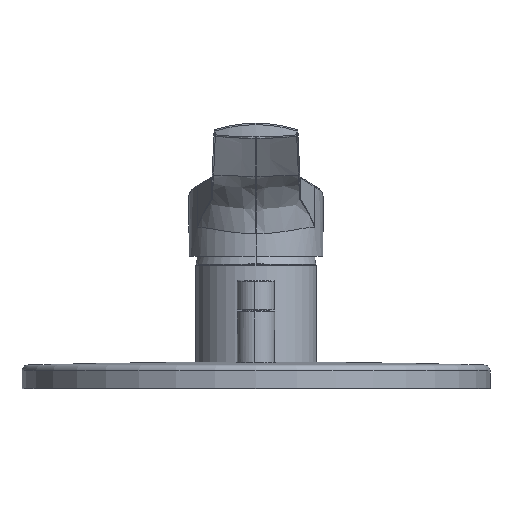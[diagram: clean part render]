
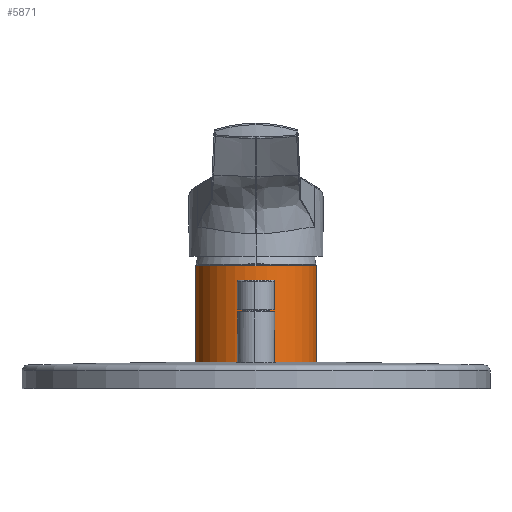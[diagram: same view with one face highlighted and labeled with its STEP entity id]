
A CAD part, left-side view. The second image highlights one B-rep face of the part: STEP entity #5871.
In plain terms, the highlighted cylindrical face has radius 20.35 mm (diameter 40.7 mm), a partial arc.
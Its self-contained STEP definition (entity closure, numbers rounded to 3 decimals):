
#1078=CARTESIAN_POINT('',(0.,0.,20.));
#1079=DIRECTION('',(0.,0.,1.));
#1080=DIRECTION('',(0.,1.,0.));
#1081=AXIS2_PLACEMENT_3D('',#1078,#1079,#1080);
#1083=CARTESIAN_POINT('',(0.,0.,61.3));
#1084=DIRECTION('',(0.,0.,-1.));
#1085=DIRECTION('',(0.,-1.,0.));
#1086=AXIS2_PLACEMENT_3D('',#1083,#1084,#1085);
#1193=DIRECTION('',(0.,0.,-1.));
#1194=VECTOR('',#1193,41.3);
#1195=CARTESIAN_POINT('',(0.,-20.35,61.3));
#1196=LINE('',#1195,#1194);
#1202=DIRECTION('',(0.,0.,-1.));
#1203=VECTOR('',#1202,41.3);
#1204=CARTESIAN_POINT('',(0.,20.35,61.3));
#1205=LINE('',#1204,#1203);
#3819=CARTESIAN_POINT('',(0.,-20.35,61.3));
#3820=CARTESIAN_POINT('',(0.,20.35,61.3));
#3821=VERTEX_POINT('',#3819);
#3822=VERTEX_POINT('',#3820);
#5006=CARTESIAN_POINT('',(0.,20.35,20.));
#5007=CARTESIAN_POINT('',(0.,-20.35,20.));
#5008=VERTEX_POINT('',#5006);
#5009=VERTEX_POINT('',#5007);
#5857=CARTESIAN_POINT('',(0.,0.,3.225));
#5858=DIRECTION('',(0.,0.,1.));
#5859=DIRECTION('',(0.,-1.,0.));
#5860=AXIS2_PLACEMENT_3D('',#5857,#5858,#5859);
#5861=CYLINDRICAL_SURFACE('',#5860,20.35);
#5863=ORIENTED_EDGE('',*,*,#5862,.F.);
#5865=ORIENTED_EDGE('',*,*,#5864,.F.);
#5866=ORIENTED_EDGE('',*,*,#5847,.F.);
#5868=ORIENTED_EDGE('',*,*,#5867,.T.);
#5869=EDGE_LOOP('',(#5863,#5865,#5866,#5868));
#5870=FACE_OUTER_BOUND('',#5869,.F.);
#5871=ADVANCED_FACE('',(#5870),#5861,.T.);
#1082=CIRCLE('',#1081,20.35);
#1087=CIRCLE('',#1086,20.35);
#5847=EDGE_CURVE('',#3821,#3822,#1087,.T.);
#5862=EDGE_CURVE('',#5008,#5009,#1082,.T.);
#5864=EDGE_CURVE('',#3822,#5008,#1205,.T.);
#5867=EDGE_CURVE('',#3821,#5009,#1196,.T.);
